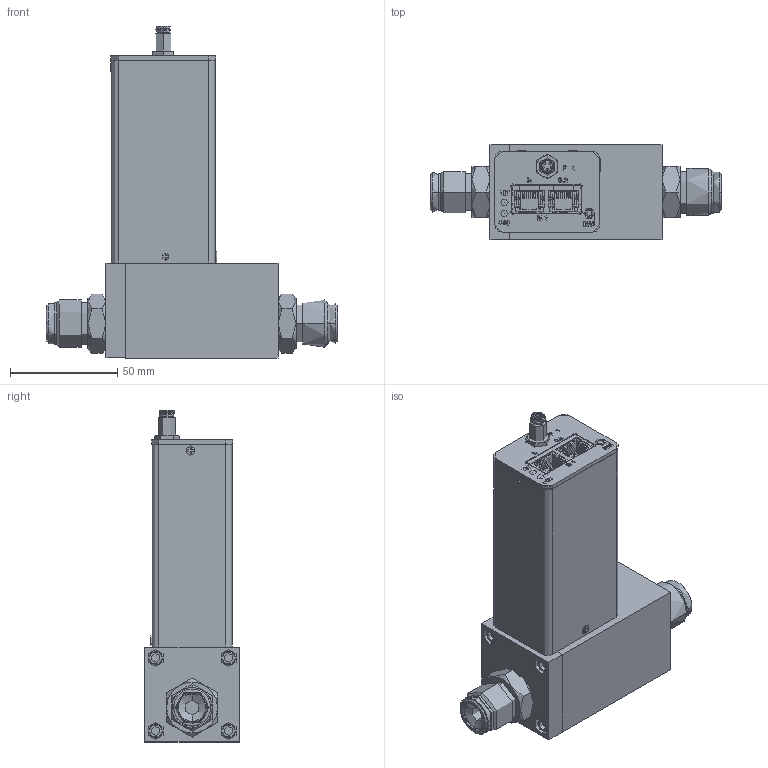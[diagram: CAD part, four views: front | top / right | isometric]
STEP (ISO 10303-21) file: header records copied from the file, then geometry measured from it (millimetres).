
FILE_DESCRIPTION (( 'STEP AP203' ), '1' );
FILE_NAME ('SLA5861-E-1L-0-A-REVB1.STEP', '2017-12-12T21:26:35', ( 'mrutkowski' ), ( 'Hewlett-Packard Company' ), 'SwSTEP 2.0', 'SolidWorks 2017', '' );
FILE_SCHEMA (( 'CONFIG_CONTROL_DESIGN' ));
Length unit declared in the file: inch
Products named in the file (1): SLA5861-E-1L-0-A-REVB1
Bounding box: 135.38 x 44.3 x 154.43 mm (x, y, z)
Topology: 0 solids, 144 shells, 861 faces, 2667 edges, 1908 vertices
Faces by surface type: plane 607, cylinder 147, cone 65, bspline 21, torus 12, sphere 9
Full cylindrical faces by diameter (mm): 0.546 x1, 0.576 x1, 1.06 x1, 1.219 x1
Entity records: 35011 total; most frequent: CARTESIAN_POINT 13475, ORIENTED_EDGE 4206, DIRECTION 3794, EDGE_CURVE 2664, VERTEX_POINT 1903, VECTOR 1550, LINE 1550, AXIS2_PLACEMENT_3D 1122
